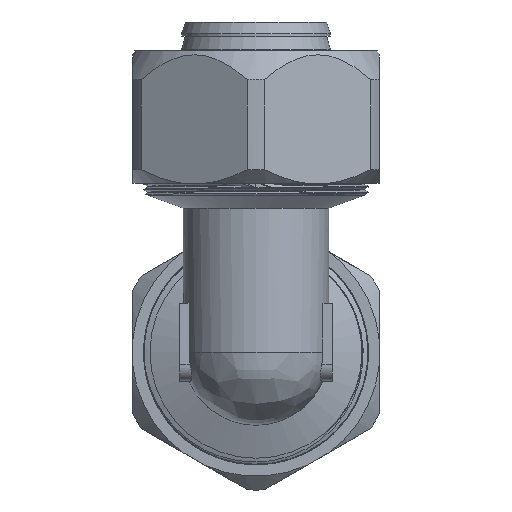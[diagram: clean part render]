
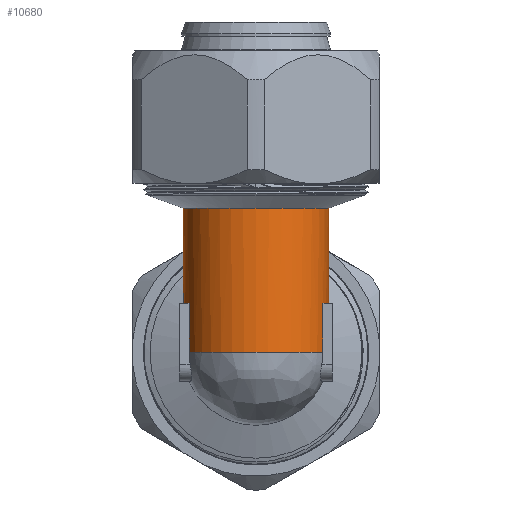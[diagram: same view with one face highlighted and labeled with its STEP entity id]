
A CAD part, front view. The second image highlights one B-rep face of the part: STEP entity #10680.
In plain terms, the highlighted cylindrical face has radius 12.65 mm (diameter 25.3 mm), a full revolution.
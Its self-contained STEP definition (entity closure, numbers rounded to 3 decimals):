
#380=ELLIPSE('',#11412,17.89,12.65);
#658=CYLINDRICAL_SURFACE('',#11410,12.65);
#1448=FACE_OUTER_BOUND('',#2062,.T.);
#2062=EDGE_LOOP('',(#7306,#7307,#7308,#7309,#7310,#7311,#7312,#7313,#7314,
#7315,#7316,#7317,#7318,#7319));
#2722=LINE('',#14128,#3427);
#2723=LINE('',#14132,#3428);
#2724=LINE('',#14136,#3429);
#2725=LINE('',#14140,#3430);
#2726=LINE('',#14144,#3431);
#3427=VECTOR('',#12096,12.65);
#3428=VECTOR('',#12099,10.);
#3429=VECTOR('',#12102,10.);
#3430=VECTOR('',#12105,10.);
#3431=VECTOR('',#12108,10.);
#4128=CIRCLE('',#11379,12.65);
#4129=CIRCLE('',#11380,12.65);
#4130=CIRCLE('',#11381,12.65);
#4150=CIRCLE('',#11411,12.65);
#4151=CIRCLE('',#11413,12.65);
#4152=CIRCLE('',#11414,12.65);
#4153=CIRCLE('',#11415,12.65);
#4403=VERTEX_POINT('',#14068);
#4404=VERTEX_POINT('',#14070);
#4405=VERTEX_POINT('',#14072);
#4424=VERTEX_POINT('',#14127);
#4425=VERTEX_POINT('',#14129);
#4426=VERTEX_POINT('',#14131);
#4427=VERTEX_POINT('',#14133);
#4428=VERTEX_POINT('',#14135);
#4429=VERTEX_POINT('',#14137);
#4430=VERTEX_POINT('',#14139);
#4431=VERTEX_POINT('',#14141);
#4432=VERTEX_POINT('',#14143);
#5552=EDGE_CURVE('',#4404,#4403,#4128,.T.);
#5553=EDGE_CURVE('',#4405,#4404,#4129,.T.);
#5554=EDGE_CURVE('',#4403,#4405,#4130,.T.);
#5579=EDGE_CURVE('',#4403,#4424,#2722,.T.);
#5580=EDGE_CURVE('',#4424,#4425,#4150,.T.);
#5581=EDGE_CURVE('',#4425,#4426,#2723,.T.);
#5582=EDGE_CURVE('',#4427,#4426,#380,.T.);
#5583=EDGE_CURVE('',#4427,#4428,#2724,.T.);
#5584=EDGE_CURVE('',#4428,#4429,#4151,.T.);
#5585=EDGE_CURVE('',#4429,#4430,#2725,.T.);
#5586=EDGE_CURVE('',#4430,#4431,#4152,.T.);
#5587=EDGE_CURVE('',#4431,#4432,#2726,.T.);
#5588=EDGE_CURVE('',#4432,#4424,#4153,.T.);
#7306=ORIENTED_EDGE('',*,*,#5552,.T.);
#7307=ORIENTED_EDGE('',*,*,#5579,.T.);
#7308=ORIENTED_EDGE('',*,*,#5580,.T.);
#7309=ORIENTED_EDGE('',*,*,#5581,.T.);
#7310=ORIENTED_EDGE('',*,*,#5582,.F.);
#7311=ORIENTED_EDGE('',*,*,#5583,.T.);
#7312=ORIENTED_EDGE('',*,*,#5584,.T.);
#7313=ORIENTED_EDGE('',*,*,#5585,.T.);
#7314=ORIENTED_EDGE('',*,*,#5586,.T.);
#7315=ORIENTED_EDGE('',*,*,#5587,.T.);
#7316=ORIENTED_EDGE('',*,*,#5588,.T.);
#7317=ORIENTED_EDGE('',*,*,#5579,.F.);
#7318=ORIENTED_EDGE('',*,*,#5554,.T.);
#7319=ORIENTED_EDGE('',*,*,#5553,.T.);
#10680=ADVANCED_FACE('',(#1448),#658,.T.);
#11379=AXIS2_PLACEMENT_3D('',#14071,#12027,#12028);
#11380=AXIS2_PLACEMENT_3D('',#14073,#12029,#12030);
#11381=AXIS2_PLACEMENT_3D('',#14074,#12031,#12032);
#11410=AXIS2_PLACEMENT_3D('',#14126,#12094,#12095);
#11411=AXIS2_PLACEMENT_3D('',#14130,#12097,#12098);
#11412=AXIS2_PLACEMENT_3D('',#14134,#12100,#12101);
#11413=AXIS2_PLACEMENT_3D('',#14138,#12103,#12104);
#11414=AXIS2_PLACEMENT_3D('',#14142,#12106,#12107);
#11415=AXIS2_PLACEMENT_3D('',#14145,#12109,#12110);
#12027=DIRECTION('center_axis',(0.,0.,-1.));
#12028=DIRECTION('ref_axis',(1.,0.,0.));
#12029=DIRECTION('center_axis',(0.,0.,-1.));
#12030=DIRECTION('ref_axis',(-1.,0.,0.));
#12031=DIRECTION('center_axis',(0.,0.,-1.));
#12032=DIRECTION('ref_axis',(1.,0.,0.));
#12094=DIRECTION('center_axis',(0.,0.,1.));
#12095=DIRECTION('ref_axis',(-1.,0.,0.));
#12096=DIRECTION('',(0.,0.,-1.));
#12097=DIRECTION('center_axis',(0.,0.,1.));
#12098=DIRECTION('ref_axis',(-1.,0.,0.));
#12099=DIRECTION('',(0.,0.,-1.));
#12100=DIRECTION('center_axis',(0.,0.707,-0.707));
#12101=DIRECTION('ref_axis',(0.,-0.707,-0.707));
#12102=DIRECTION('',(0.,0.,1.));
#12103=DIRECTION('center_axis',(0.,0.,1.));
#12104=DIRECTION('ref_axis',(-1.,0.,0.));
#12105=DIRECTION('',(0.,0.,-1.));
#12106=DIRECTION('center_axis',(0.,0.,1.));
#12107=DIRECTION('ref_axis',(-1.,0.,0.));
#12108=DIRECTION('',(0.,0.,1.));
#12109=DIRECTION('center_axis',(0.,0.,1.));
#12110=DIRECTION('ref_axis',(-1.,0.,0.));
#14068=CARTESIAN_POINT('',(12.65,-40.5,24.999));
#14070=CARTESIAN_POINT('',(0.,-27.85,24.999));
#14071=CARTESIAN_POINT('Origin',(0.,-40.5,24.999));
#14072=CARTESIAN_POINT('',(0.,-53.15,24.999));
#14073=CARTESIAN_POINT('Origin',(0.,-40.5,24.999));
#14074=CARTESIAN_POINT('Origin',(0.,-40.5,24.999));
#14126=CARTESIAN_POINT('Origin',(0.,-40.5,0.));
#14127=CARTESIAN_POINT('',(12.65,-40.5,8.5));
#14128=CARTESIAN_POINT('',(12.65,-40.5,0.));
#14129=CARTESIAN_POINT('',(11.62,-35.5,8.5));
#14130=CARTESIAN_POINT('Origin',(0.,-40.5,8.5));
#14131=CARTESIAN_POINT('',(11.62,-35.5,5.));
#14132=CARTESIAN_POINT('',(11.62,-35.5,0.));
#14133=CARTESIAN_POINT('',(-11.62,-35.5,5.));
#14134=CARTESIAN_POINT('Origin',(0.,-40.5,0.));
#14135=CARTESIAN_POINT('',(-11.62,-35.5,8.5));
#14136=CARTESIAN_POINT('',(-11.62,-35.5,0.));
#14137=CARTESIAN_POINT('',(-11.62,-45.5,8.5));
#14138=CARTESIAN_POINT('Origin',(0.,-40.5,8.5));
#14139=CARTESIAN_POINT('',(-11.62,-45.5,0.));
#14140=CARTESIAN_POINT('',(-11.62,-45.5,0.));
#14141=CARTESIAN_POINT('',(11.62,-45.5,0.));
#14142=CARTESIAN_POINT('Origin',(0.,-40.5,0.));
#14143=CARTESIAN_POINT('',(11.62,-45.5,8.5));
#14144=CARTESIAN_POINT('',(11.62,-45.5,0.));
#14145=CARTESIAN_POINT('Origin',(0.,-40.5,8.5));
